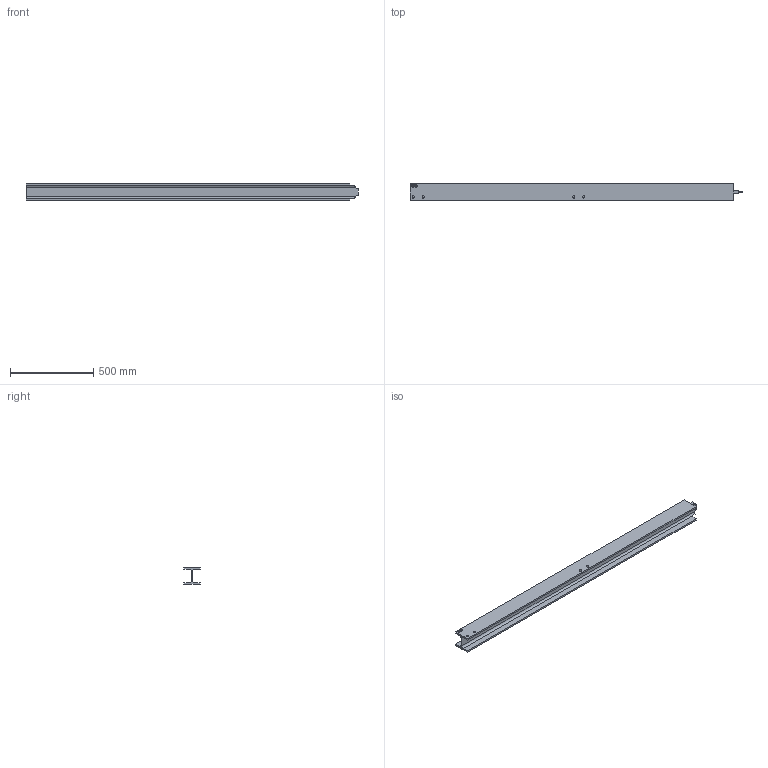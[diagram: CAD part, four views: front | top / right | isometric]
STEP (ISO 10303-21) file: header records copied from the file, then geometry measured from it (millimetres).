
FILE_DESCRIPTION (( 'STEP AP214' ), '1' );
FILE_NAME ('CCJ029-REP.026 - POUTRE INTERMEDIAIRE B4-B5.STEP', '2025-10-31T14:48:24', ( '' ), ( '' ), 'SwSTEP 2.0', 'SolidWorks 2021', '' );
FILE_SCHEMA (( 'AUTOMOTIVE_DESIGN' ));
Length unit declared in the file: millimetre
Products named in the file (1): CCJ029-REP.026 - POUTRE INTERMEDIAIRE B4-B5
Bounding box: 1998.5 x 100 x 100 mm (x, y, z)
Volume: 5088978.7 mm3; surface area: 1119880.5 mm2
Topology: 1 solids, 1 shells, 70 faces, 189 edges, 126 vertices
Faces by surface type: plane 32, bspline 24, cylinder 14
Entity records: 3895 total; most frequent: CARTESIAN_POINT 2226, ORIENTED_EDGE 378, DIRECTION 259, EDGE_CURVE 189, VERTEX_POINT 126, VECTOR 109, LINE 109, EDGE_LOOP 83
